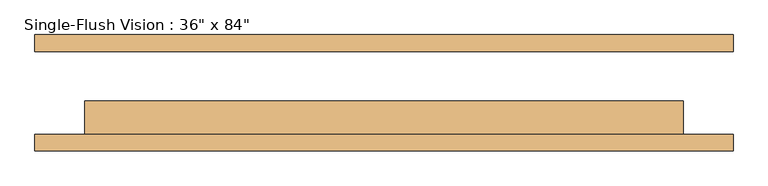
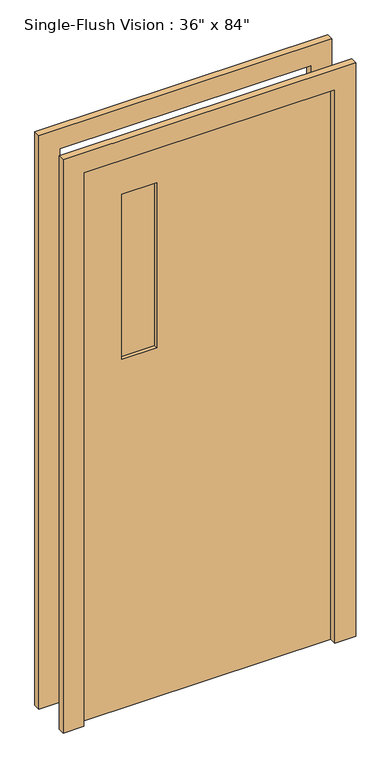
"""IFC4 building model written with IfcOpenShell, lengths in millimetres: door geometry."""

from ifc_helpers import new_model, si_unit, frame, origin, place, context, project, spatial, polyline, outline, extrude, source, transform, mapped, element, save


def door_98659c12(model_context):
    return source(origin(), model_context, "Body", "SweptSolid", [
        extrude(outline(polyline([(2209.8, -533.4), (0.0, -533.4), (0.0, -457.2), (2133.6, -457.2), (2133.6, 457.2), (0.0, 457.2), (0.0, 533.4), (2209.8, 533.4), (2209.8, -533.4)])), frame((0.0, -88.9, 0.0), z_axis=(0.0, 1.0, 0.0), x_axis=(0.0, 0.0, 1.0)), (0.0, 0.0, 1.0), 25.4),
        extrude(outline(polyline([(2133.6, 457.2), (0.0, 457.2), (0.0, 533.4), (2209.8, 533.4), (2209.8, -533.4), (0.0, -533.4), (0.0, -457.2), (2133.6, -457.2), (2133.6, 457.2)])), frame((0.0, 63.5, 0.0), z_axis=(0.0, 1.0, 0.0), x_axis=(0.0, 0.0, 1.0)), (0.0, 0.0, 1.0), 25.4),
        extrude(outline(polyline([(-177.8, -25.4), (-177.8, -31.75), (-304.8, -31.75), (-304.8, -25.4), (-177.8, -25.4)])), frame((0.0, 0.0, 1346.2), z_axis=(0.0, 0.0, 1.0), x_axis=(1.0, 0.0, 0.0)), (0.0, 0.0, 1.0), 635.0),
        extrude(outline(polyline([(-177.8, -44.45), (-177.8, -50.8), (-304.8, -50.8), (-304.8, -44.45), (-177.8, -44.45)])), frame((0.0, 0.0, 1346.2), z_axis=(0.0, 0.0, 1.0), x_axis=(1.0, 0.0, 0.0)), (0.0, 0.0, 1.0), 635.0),
        extrude(outline(polyline([(2133.6, -457.2), (0.0, -457.2), (0.0, 457.2), (2133.6, 457.2), (2133.6, -457.2)]), holes=[polyline([(1981.2, -304.8), (1981.2, -177.8), (1346.2, -177.8), (1346.2, -304.8), (1981.2, -304.8)])]), frame((0.0, -63.5, 0.0), z_axis=(0.0, 1.0, 0.0), x_axis=(0.0, 0.0, 1.0)), (0.0, 0.0, 1.0), 50.8),
    ])


if __name__ == "__main__":
    model = new_model("IFC4")
    model_context = context("Model", 3, world=origin())
    ifc_project = project(units=[si_unit("LENGTHUNIT", "METRE", prefix="MILLI")], contexts=[model_context])
    site = spatial("IfcSite", under=ifc_project)
    building = spatial("IfcBuilding", under=site)
    placement = place(None, origin())
    door_shape = door_98659c12(model_context)
    element("IfcDoor", 1, ObjectType="Single-Flush Vision : 36\" x 84\"", at=placement, inside=building, context=model_context, shape_type="MappedRepresentation", body=[
        mapped(door_shape, transform((0.0, 0.0, 0.0), x_axis=(1.0, 0.0, 0.0), y_axis=(0.0, 1.0, 0.0), z_axis=(0.0, 0.0, 1.0))),
    ])
    save(model, "model.ifc")
